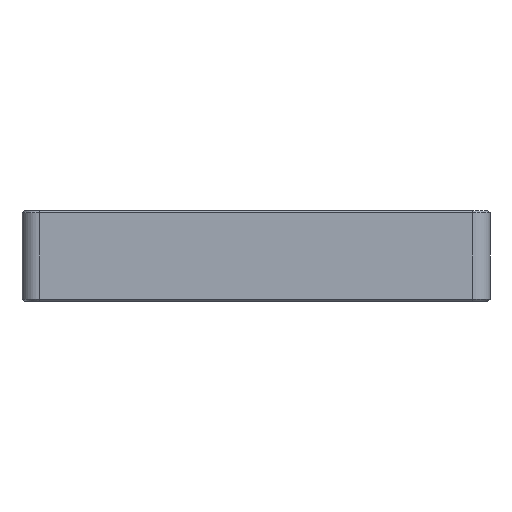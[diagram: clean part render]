
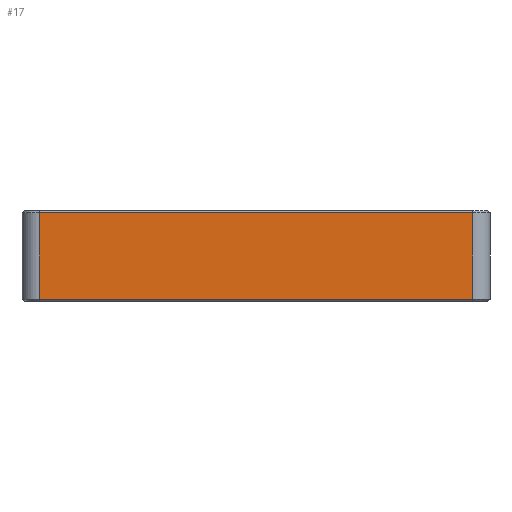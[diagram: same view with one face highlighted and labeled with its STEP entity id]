
A CAD part, left-side view. The second image highlights one B-rep face of the part: STEP entity #17.
In plain terms, the highlighted planar face has unit normal (-1, 0, 0).
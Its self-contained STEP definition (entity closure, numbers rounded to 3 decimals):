
#17 = ADVANCED_FACE('',(#18),#32,.T.);
#18 = FACE_BOUND('',#19,.T.);
#19 = EDGE_LOOP('',(#20,#55,#83,#111));
#20 = ORIENTED_EDGE('',*,*,#21,.T.);
#21 = EDGE_CURVE('',#22,#24,#26,.T.);
#22 = VERTEX_POINT('',#23);
#23 = CARTESIAN_POINT('',(-75.8,-50.,0.55));
#24 = VERTEX_POINT('',#25);
#25 = CARTESIAN_POINT('',(-75.8,-50.,20.4));
#26 = SURFACE_CURVE('',#27,(#31,#43),.PCURVE_S1.);
#27 = LINE('',#28,#29);
#28 = CARTESIAN_POINT('',(-75.8,-50.,0.));
#29 = VECTOR('',#30,1.);
#30 = DIRECTION('',(0.,0.,1.));
#31 = PCURVE('',#32,#37);
#32 = PLANE('',#33);
#33 = AXIS2_PLACEMENT_3D('',#34,#35,#36);
#34 = CARTESIAN_POINT('',(-75.8,-50.,0.));
#35 = DIRECTION('',(-1.,0.,0.));
#36 = DIRECTION('',(0.,1.,0.));
#37 = DEFINITIONAL_REPRESENTATION('',(#38),#42);
#38 = LINE('',#39,#40);
#39 = CARTESIAN_POINT('',(0.,0.));
#40 = VECTOR('',#41,1.);
#41 = DIRECTION('',(0.,-1.));
#42 = ( GEOMETRIC_REPRESENTATION_CONTEXT(2) 
PARAMETRIC_REPRESENTATION_CONTEXT() REPRESENTATION_CONTEXT('2D SPACE',''
  ) );
#43 = PCURVE('',#44,#49);
#44 = CYLINDRICAL_SURFACE('',#45,4.);
#45 = AXIS2_PLACEMENT_3D('',#46,#47,#48);
#46 = CARTESIAN_POINT('',(-71.8,-50.,0.));
#47 = DIRECTION('',(0.,0.,-1.));
#48 = DIRECTION('',(-1.,0.,0.));
#49 = DEFINITIONAL_REPRESENTATION('',(#50),#54);
#50 = LINE('',#51,#52);
#51 = CARTESIAN_POINT('',(6.283,0.));
#52 = VECTOR('',#53,1.);
#53 = DIRECTION('',(0.,-1.));
#54 = ( GEOMETRIC_REPRESENTATION_CONTEXT(2) 
PARAMETRIC_REPRESENTATION_CONTEXT() REPRESENTATION_CONTEXT('2D SPACE',''
  ) );
#55 = ORIENTED_EDGE('',*,*,#56,.T.);
#56 = EDGE_CURVE('',#24,#57,#59,.T.);
#57 = VERTEX_POINT('',#58);
#58 = CARTESIAN_POINT('',(-75.8,50.,20.4));
#59 = SURFACE_CURVE('',#60,(#64,#71),.PCURVE_S1.);
#60 = LINE('',#61,#62);
#61 = CARTESIAN_POINT('',(-75.8,-50.,20.4));
#62 = VECTOR('',#63,1.);
#63 = DIRECTION('',(0.,1.,0.));
#64 = PCURVE('',#32,#65);
#65 = DEFINITIONAL_REPRESENTATION('',(#66),#70);
#66 = LINE('',#67,#68);
#67 = CARTESIAN_POINT('',(0.,-20.4));
#68 = VECTOR('',#69,1.);
#69 = DIRECTION('',(1.,0.));
#70 = ( GEOMETRIC_REPRESENTATION_CONTEXT(2) 
PARAMETRIC_REPRESENTATION_CONTEXT() REPRESENTATION_CONTEXT('2D SPACE',''
  ) );
#71 = PCURVE('',#72,#77);
#72 = PLANE('',#73);
#73 = AXIS2_PLACEMENT_3D('',#74,#75,#76);
#74 = CARTESIAN_POINT('',(-75.525,-50.,20.675));
#75 = DIRECTION('',(-0.707,0.,0.707));
#76 = DIRECTION('',(-0.,-1.,-0.));
#77 = DEFINITIONAL_REPRESENTATION('',(#78),#82);
#78 = LINE('',#79,#80);
#79 = CARTESIAN_POINT('',(-0.,-0.389));
#80 = VECTOR('',#81,1.);
#81 = DIRECTION('',(-1.,0.));
#82 = ( GEOMETRIC_REPRESENTATION_CONTEXT(2) 
PARAMETRIC_REPRESENTATION_CONTEXT() REPRESENTATION_CONTEXT('2D SPACE',''
  ) );
#83 = ORIENTED_EDGE('',*,*,#84,.F.);
#84 = EDGE_CURVE('',#85,#57,#87,.T.);
#85 = VERTEX_POINT('',#86);
#86 = CARTESIAN_POINT('',(-75.8,50.,0.55));
#87 = SURFACE_CURVE('',#88,(#92,#99),.PCURVE_S1.);
#88 = LINE('',#89,#90);
#89 = CARTESIAN_POINT('',(-75.8,50.,0.));
#90 = VECTOR('',#91,1.);
#91 = DIRECTION('',(0.,0.,1.));
#92 = PCURVE('',#32,#93);
#93 = DEFINITIONAL_REPRESENTATION('',(#94),#98);
#94 = LINE('',#95,#96);
#95 = CARTESIAN_POINT('',(100.,0.));
#96 = VECTOR('',#97,1.);
#97 = DIRECTION('',(0.,-1.));
#98 = ( GEOMETRIC_REPRESENTATION_CONTEXT(2) 
PARAMETRIC_REPRESENTATION_CONTEXT() REPRESENTATION_CONTEXT('2D SPACE',''
  ) );
#99 = PCURVE('',#100,#105);
#100 = CYLINDRICAL_SURFACE('',#101,4.);
#101 = AXIS2_PLACEMENT_3D('',#102,#103,#104);
#102 = CARTESIAN_POINT('',(-71.8,50.,0.));
#103 = DIRECTION('',(0.,0.,-1.));
#104 = DIRECTION('',(-1.,0.,0.));
#105 = DEFINITIONAL_REPRESENTATION('',(#106),#110);
#106 = LINE('',#107,#108);
#107 = CARTESIAN_POINT('',(0.,0.));
#108 = VECTOR('',#109,1.);
#109 = DIRECTION('',(0.,-1.));
#110 = ( GEOMETRIC_REPRESENTATION_CONTEXT(2) 
PARAMETRIC_REPRESENTATION_CONTEXT() REPRESENTATION_CONTEXT('2D SPACE',''
  ) );
#111 = ORIENTED_EDGE('',*,*,#112,.F.);
#112 = EDGE_CURVE('',#22,#85,#113,.T.);
#113 = SURFACE_CURVE('',#114,(#118,#125),.PCURVE_S1.);
#114 = LINE('',#115,#116);
#115 = CARTESIAN_POINT('',(-75.8,-50.,0.55));
#116 = VECTOR('',#117,1.);
#117 = DIRECTION('',(0.,1.,0.));
#118 = PCURVE('',#32,#119);
#119 = DEFINITIONAL_REPRESENTATION('',(#120),#124);
#120 = LINE('',#121,#122);
#121 = CARTESIAN_POINT('',(0.,-0.55));
#122 = VECTOR('',#123,1.);
#123 = DIRECTION('',(1.,0.));
#124 = ( GEOMETRIC_REPRESENTATION_CONTEXT(2) 
PARAMETRIC_REPRESENTATION_CONTEXT() REPRESENTATION_CONTEXT('2D SPACE',''
  ) );
#125 = PCURVE('',#126,#131);
#126 = PLANE('',#127);
#127 = AXIS2_PLACEMENT_3D('',#128,#129,#130);
#128 = CARTESIAN_POINT('',(-75.525,-50.,0.275));
#129 = DIRECTION('',(0.707,0.,0.707));
#130 = DIRECTION('',(0.,-1.,0.));
#131 = DEFINITIONAL_REPRESENTATION('',(#132),#136);
#132 = LINE('',#133,#134);
#133 = CARTESIAN_POINT('',(-0.,-0.389));
#134 = VECTOR('',#135,1.);
#135 = DIRECTION('',(-1.,0.));
#136 = ( GEOMETRIC_REPRESENTATION_CONTEXT(2) 
PARAMETRIC_REPRESENTATION_CONTEXT() REPRESENTATION_CONTEXT('2D SPACE',''
  ) );
